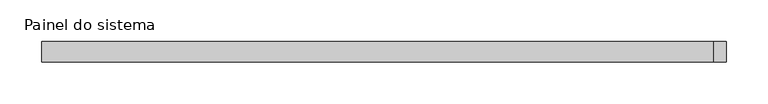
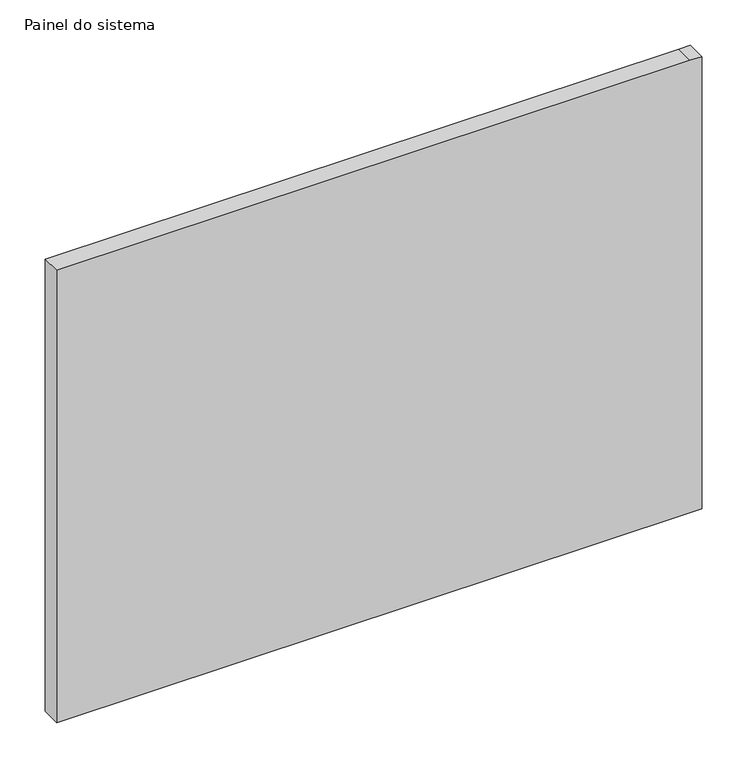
"""IFC4 building model written with IfcOpenShell, lengths in millimetres: plate geometry, Painel do sistema : Envidraçado."""

from ifc_helpers import new_model, si_unit, frame, origin, place, context, project, spatial, polyline, outline, extrude, source, transform, mapped, element, save


def painel_do_sistema_efe4f06d(model_context):
    return source(origin(), model_context, "Body", "SweptSolid", [
        extrude(outline(polyline([(0.0, -411.666496), (0.0, 396.666496), (0.0, 411.666496), (610.0, 411.666496), (610.0, 396.666496), (610.0, -411.666496), (0.0, -411.666496)])), frame((0.0, 24.5, 0.0), z_axis=(0.0, 1.0, 0.0), x_axis=(0.0, 0.0, 1.0)), (0.0, 0.0, 1.0), 25.0),
    ])


if __name__ == "__main__":
    model = new_model("IFC4")
    model_context = context("Model", 3, world=origin())
    ifc_project = project(units=[si_unit("LENGTHUNIT", "METRE", prefix="MILLI")], contexts=[model_context])
    site = spatial("IfcSite", under=ifc_project)
    building = spatial("IfcBuilding", under=site)
    placement = place(None, origin())
    painel_do_sistema_shape = painel_do_sistema_efe4f06d(model_context)
    element("IfcPlate", 1, ObjectType="Painel do sistema : Envidraçado", at=placement, inside=building, context=model_context, shape_type="MappedRepresentation", body=[
        mapped(painel_do_sistema_shape, transform((0.0, 0.0, 0.0), x_axis=(1.0, 0.0, 0.0), y_axis=(0.0, 1.0, 0.0), z_axis=(0.0, 0.0, 1.0))),
    ])
    save(model, "model.ifc")
